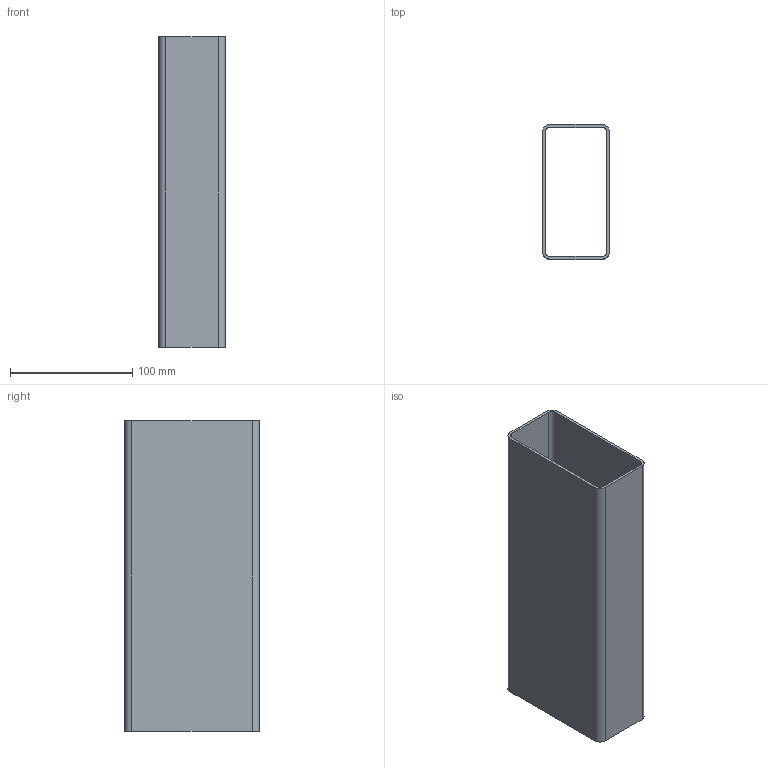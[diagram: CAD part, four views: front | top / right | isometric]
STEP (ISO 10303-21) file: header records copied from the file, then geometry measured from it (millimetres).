
FILE_DESCRIPTION (( 'STEP AP214' ), '1' );
FILE_NAME ('DRP-002-0000-05.STEP', '2010-06-24T17:00:58', ( '' ), ( '' ), 'SwSTEP 2.0', 'SolidWorks 2010', '' );
FILE_SCHEMA (( 'AUTOMOTIVE_DESIGN' ));
Length unit declared in the file: inch
Products named in the file (1): DRP-002-0000-05
Bounding box: 54.61 x 110.31 x 254 mm (x, y, z)
Volume: 171566.8 mm3; surface area: 160282.6 mm2
Topology: 1 solids, 1 shells, 18 faces, 48 edges, 32 vertices
Faces by surface type: plane 10, cylinder 8
Entity records: 612 total; most frequent: DIRECTION 102, CARTESIAN_POINT 99, ORIENTED_EDGE 96, EDGE_CURVE 48, AXIS2_PLACEMENT_3D 35, VERTEX_POINT 32, LINE 32, VECTOR 32
